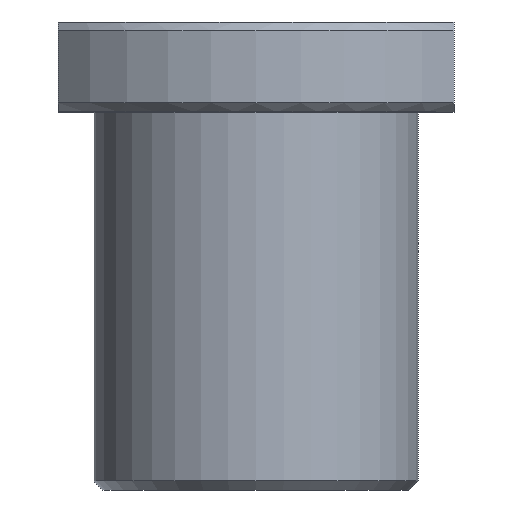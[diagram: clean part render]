
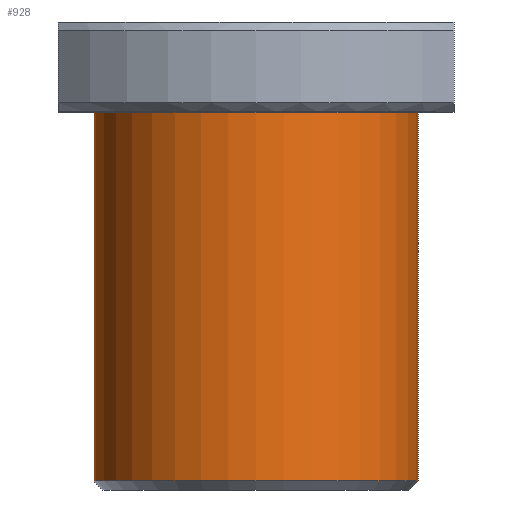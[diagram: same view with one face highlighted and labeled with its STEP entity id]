
A CAD part, front view. The second image highlights one B-rep face of the part: STEP entity #928.
In plain terms, the highlighted cylindrical face has radius 18 mm (diameter 36 mm), a partial arc.
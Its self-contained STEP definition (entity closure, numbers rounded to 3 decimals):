
#66=CARTESIAN_POINT('',(0.,0.,0.));
#67=DIRECTION('',(0.,0.,-1.));
#68=DIRECTION('',(1.,0.,0.));
#69=AXIS2_PLACEMENT_3D('',#66,#67,#68);
#261=CARTESIAN_POINT('',(0.,0.,-41.));
#262=DIRECTION('',(0.,0.,-1.));
#263=DIRECTION('',(1.,0.,0.));
#264=AXIS2_PLACEMENT_3D('',#261,#262,#263);
#266=DIRECTION('',(0.,0.,-1.));
#267=VECTOR('',#266,41.);
#268=CARTESIAN_POINT('',(18.,0.,0.));
#269=LINE('',#268,#267);
#275=DIRECTION('',(0.,0.,-1.));
#276=VECTOR('',#275,41.);
#277=CARTESIAN_POINT('',(-18.,0.,0.));
#278=LINE('',#277,#276);
#509=CARTESIAN_POINT('',(-18.,0.,0.));
#510=CARTESIAN_POINT('',(18.,0.,0.));
#511=VERTEX_POINT('',#509);
#512=VERTEX_POINT('',#510);
#545=CARTESIAN_POINT('',(-18.,0.,-41.));
#546=CARTESIAN_POINT('',(18.,0.,-41.));
#547=VERTEX_POINT('',#545);
#548=VERTEX_POINT('',#546);
#915=CARTESIAN_POINT('',(0.,0.,0.));
#916=DIRECTION('',(0.,0.,-1.));
#917=DIRECTION('',(-1.,0.,0.));
#918=AXIS2_PLACEMENT_3D('',#915,#916,#917);
#919=CYLINDRICAL_SURFACE('',#918,18.);
#920=ORIENTED_EDGE('',*,*,#909,.T.);
#922=ORIENTED_EDGE('',*,*,#921,.F.);
#923=ORIENTED_EDGE('',*,*,#618,.F.);
#925=ORIENTED_EDGE('',*,*,#924,.T.);
#926=EDGE_LOOP('',(#920,#922,#923,#925));
#927=FACE_OUTER_BOUND('',#926,.F.);
#928=ADVANCED_FACE('',(#927),#919,.T.);
#70=CIRCLE('',#69,18.);
#265=CIRCLE('',#264,18.);
#618=EDGE_CURVE('',#512,#511,#70,.T.);
#909=EDGE_CURVE('',#548,#547,#265,.T.);
#921=EDGE_CURVE('',#511,#547,#278,.T.);
#924=EDGE_CURVE('',#512,#548,#269,.T.);
